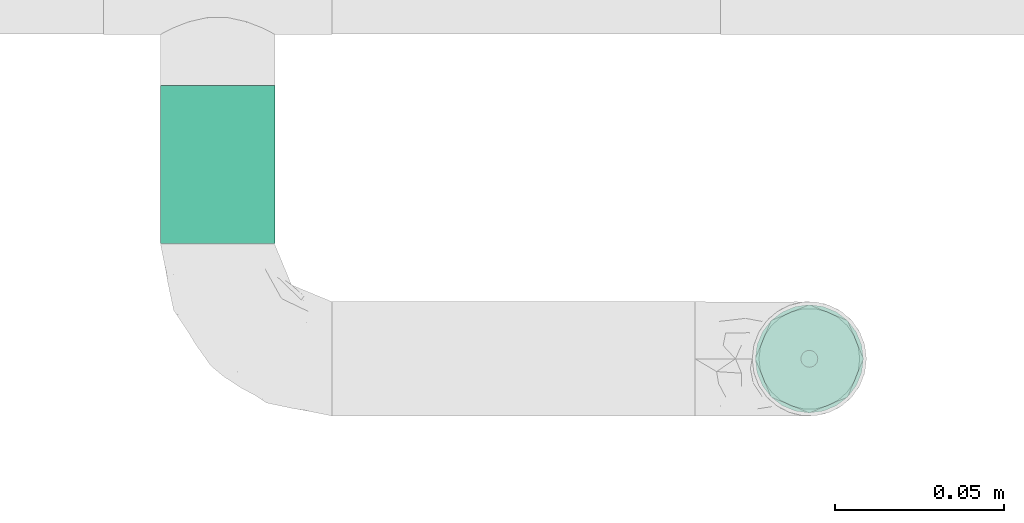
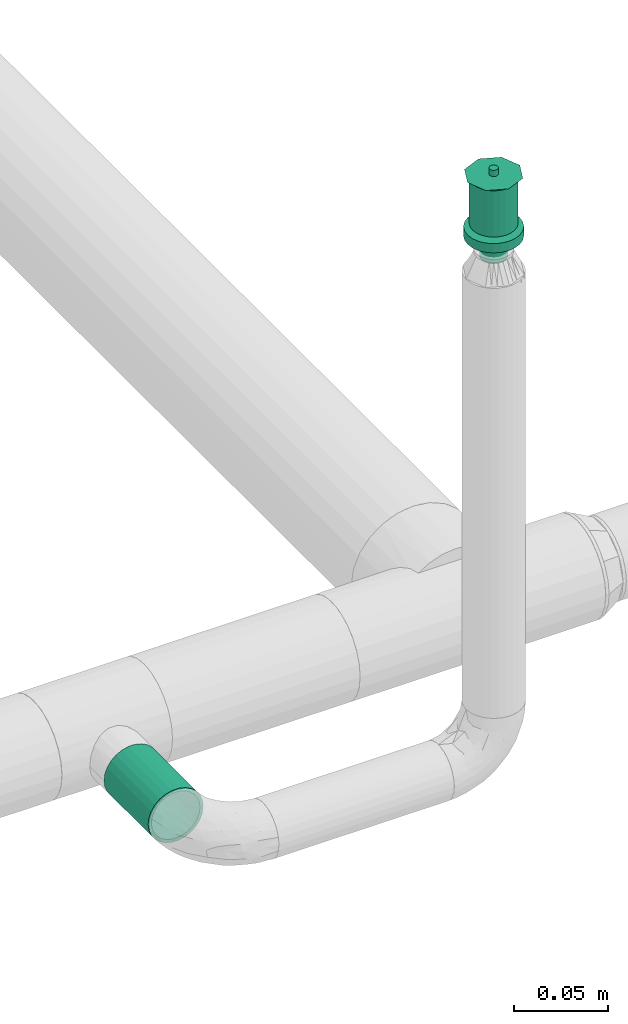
# One storey, part 80 of 157: 1 flow segment, 1 flow terminal.
"""IFC2X3 building model written with IfcOpenShell, lengths in millimetres."""

from ifc_helpers import new_model, entity, si_unit, converted_unit, derived_unit, direction, frame, origin_with_axes, origin_2d_with_axis, place, context, subcontext, project, spatial, hollow_circle, extrude, open_shell, surface_model, source, transform, mapped, type_object, element, save


model = new_model("IFC2X3")

# Units and contexts
model_context = context("Model", 3, precision=0.01, world=frame((0.0, 4.29681676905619e-09, 0.0)), true_north=direction((4.01073788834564e-13, 1.0)))
plan_context = context("Plan", 3, precision=0.01, world=frame((0.0, 4.29681676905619e-09, 0.0)), true_north=direction((4.01073788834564e-13, 1.0)))
body_context = subcontext(model_context, "Body", "Model", "MODEL_VIEW")
ifc_project = project(units=[converted_unit("PLANEANGLEUNIT", "DEGREE", entity("IfcPositiveLengthMeasure", 0.0174532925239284), si_unit("PLANEANGLEUNIT", "RADIAN"), dimensions=[0, 0, 0, 0, 0, 0, 0]), si_unit("AREAUNIT", "SQUARE_METRE"), si_unit("LENGTHUNIT", "METRE", prefix="MILLI"), si_unit("MASSUNIT", "GRAM", prefix="KILO"), si_unit("POWERUNIT", "WATT"), si_unit("PRESSUREUNIT", "PASCAL"), si_unit("FORCEUNIT", "NEWTON", prefix="KILO"), si_unit("ELECTRICCURRENTUNIT", "AMPERE"), si_unit("THERMODYNAMICTEMPERATUREUNIT", "DEGREE_CELSIUS"), si_unit("TIMEUNIT", "SECOND"), si_unit("VOLUMEUNIT", "CUBIC_METRE"), derived_unit("LINEARVELOCITYUNIT", [(si_unit("LENGTHUNIT", "METRE"), 1), (si_unit("TIMEUNIT", "SECOND"), -1)]), derived_unit("VOLUMETRICFLOWRATEUNIT", [(si_unit("VOLUMEUNIT", "CUBIC_METRE"), 1), (si_unit("TIMEUNIT", "SECOND"), -1)]), derived_unit("THERMALTRANSMITTANCEUNIT", [(si_unit("POWERUNIT", "WATT"), 1), (si_unit("THERMODYNAMICTEMPERATUREUNIT", "KELVIN"), -1), (si_unit("AREAUNIT", "SQUARE_METRE"), -1)])], contexts=[model_context, plan_context])

# Site, building, storey
site_placement = place(None, frame((0.0, -4.29681676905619e-09, 0.0), z_axis=(0.0, 0.0, 1.0), x_axis=(1.0, 0.0, 0.0)))
site = spatial("IfcSite", under=ifc_project, at=site_placement, CompositionType="ELEMENT")
building_placement = place(site_placement, frame((0.0, 4.29681676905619e-09, 0.0), z_axis=(0.0, 0.0, 1.0), x_axis=(1.0, 0.0, 0.0)))
building = spatial("IfcBuilding", under=site, at=building_placement, Name="mc-building", CompositionType="ELEMENT")
storey_placement = place(building_placement, frame((0.0, 0.0, 204000.0), z_axis=(0.0, 0.0, 1.0), x_axis=(1.0, 0.0, 0.0)))
storey = spatial("IfcBuildingStorey", under=building, at=storey_placement, Name="Nivå D", CompositionType="ELEMENT", Elevation=204000.0)

# Flow segment
pipe_segment_type = type_object("IfcPipeSegmentType", Name="Stålrør normaltykke", PredefinedType="RIGIDSEGMENT")
shared_shape_1 = source(origin_with_axes(), body_context, "Body", "SweptSolid", [
    extrude(hollow_circle(Radius=16.9, WallThickness=2.0, at=origin_2d_with_axis()), frame((0.0, 0.0, 0.0), z_axis=(1.0, 0.0, 0.0), x_axis=(0.0, 1.0, 0.0)), (0.0, 0.0, 1.0), 46.8),
])
flow_segment_placement = place(storey_placement, frame((520260.35, 413994.05389, 2690.0), z_axis=(0.0, 0.0, 1.0), x_axis=(0.0, -1.0, 0.0)))
element("IfcFlowSegment", 1, at=flow_segment_placement, inside=storey, type_object=pipe_segment_type, Name="Stålrør normaltykke", context=body_context, shape_type="MappedRepresentation", body=[
    mapped(shared_shape_1, transform((0.0, 0.0, 0.0), scale=1.0)),
])

# Flow terminal
fire_suppression_terminal_type = type_object("IfcFireSuppressionTerminalType", Name="68DGR-STD-STÅENDE", PredefinedType="NOTDEFINED")
shared_shape_2 = source(origin_with_axes(), body_context, "Body", "SurfaceModel", [
    surface_model("IfcShellBasedSurfaceModel", [(3.36465, -12.55704, 51.0), (6.5, -11.25833, 51.0), (9.19239, -9.19239, 51.0), (12.55704, -3.36465, 51.0), (-11.25833, -6.5, 51.0), (11.25833, -6.5, 51.0), (-13.0, 0.0, 51.0), (0.0, -13.0, 51.0), (-6.5, -11.25833, 51.0), (-3.36465, -12.55704, 51.0), (-9.19239, -9.19239, 51.0), (-12.55704, -3.36465, 51.0), (13.0, 0.0, 51.0), (12.55704, 3.36465, 51.0), (11.25833, 6.5, 51.0), (9.19239, 9.19239, 51.0), (6.5, 11.25833, 51.0), (3.36465, 12.55704, 51.0), (0.0, 13.0, 51.0), (-3.36465, 12.55704, 51.0), (-12.55704, 3.36465, 51.0), (-9.19239, 9.19239, 51.0), (-11.25833, 6.5, 51.0), (-6.5, 11.25833, 51.0), (0.0, 13.0, 21.14766), (3.36465, 12.55704, 21.14766), (6.5, 11.25833, 21.14766), (-3.36465, 12.55704, 21.14766), (9.19239, 9.19239, 21.14766), (11.25833, 6.5, 21.14766), (12.55704, 3.36465, 21.14766), (-12.55704, 3.36465, 21.14766), (-11.25833, -6.5, 21.14766), (-9.19239, 9.19239, 21.14766), (-6.5, 11.25833, 21.14766), (-11.25833, 6.5, 21.14766), (-13.0, 0.0, 21.14766), (12.55704, -3.36465, 21.14766), (9.19239, -9.19239, 21.14766), (11.25833, -6.5, 21.14766), (6.5, -11.25833, 21.14766), (3.36465, -12.55704, 21.14766), (-6.5, -11.25833, 21.14766), (-9.19239, -9.19239, 21.14766), (-12.55704, -3.36465, 21.14766), (0.0, -13.0, 21.14766), (-3.36465, -12.55704, 21.14766), (13.0, 0.0, 21.14766), (7.24444, -1.94114, 0.1), (1.94114, -7.24444, 0.1), (3.75, -6.49519, 0.1), (5.3033, -5.3033, 0.1), (-5.3033, -5.3033, 0.1), (6.49519, -3.75, 0.1), (5.3033, 5.3033, 0.1), (0.0, -7.5, 0.1), (-3.75, -6.49519, 0.1), (-1.94114, -7.24444, 0.1), (-7.24444, -1.94114, 0.1), (-6.49519, -3.75, 0.1), (-7.24444, 1.94114, 0.1), (7.5, 0.0, 0.1), (6.49519, 3.75, 0.1), (-6.49519, 3.75, 0.1), (1.94114, 7.24444, 0.1), (0.0, 7.5, 0.1), (3.75, 6.49519, 0.1), (-7.5, 0.0, 0.1), (-5.3033, 5.3033, 0.1), (-1.94114, 7.24444, 0.1), (-3.75, 6.49519, 0.1), (7.24444, 1.94114, 0.1), (1.94114, 7.24444, -0.1), (-6.49519, 3.75, -0.1), (0.0, 7.5, -0.1), (5.3033, 5.3033, -0.1), (3.75, 6.49519, -0.1), (6.49519, 3.75, -0.1), (7.24444, 1.94114, -0.1), (-1.94114, 7.24444, -0.1), (-5.3033, 5.3033, -0.1), (-3.75, 6.49519, -0.1), (-7.24444, 1.94114, -0.1), (-7.24444, -1.94114, -0.1), (-7.5, 0.0, -0.1), (7.5, 0.0, -0.1), (7.24444, -1.94114, -0.1), (-5.3033, -5.3033, -0.1), (1.94114, -7.24444, -0.1), (6.49519, -3.75, -0.1), (5.3033, -5.3033, -0.1), (3.75, -6.49519, -0.1), (-6.49519, -3.75, -0.1), (-3.75, -6.49519, -0.1), (0.0, -7.5, -0.1), (-1.94114, -7.24444, -0.1), (0.0, -2.5, 51.0), (-2.5, 0.0, 51.0), (0.0, 2.5, 51.0), (2.5, 0.0, 51.0), (0.0, -16.0, 53.0), (11.31371, -11.31371, 53.0), (-11.31371, -11.31371, 53.0), (-16.0, 0.0, 53.0), (16.0, 0.0, 53.0), (11.31371, 11.31371, 53.0), (0.0, 16.0, 53.0), (-11.31371, 11.31371, 53.0), (1.25, -2.16506, 57.0), (0.0, -2.5, 57.0), (0.64705, -2.41481, 57.0), (2.41481, -0.64705, 57.0), (1.76777, -1.76777, 57.0), (-2.41481, -0.64705, 57.0), (-2.5, 0.0, 57.0), (2.16506, -1.25, 57.0), (-1.25, -2.16506, 57.0), (-0.64705, -2.41481, 57.0), (-1.76777, -1.76777, 57.0), (-2.16506, -1.25, 57.0), (2.5, 0.0, 57.0), (2.41481, 0.64705, 57.0), (2.16506, 1.25, 57.0), (1.76777, 1.76777, 57.0), (0.64705, 2.41481, 57.0), (1.25, 2.16506, 57.0), (-1.76777, 1.76777, 57.0), (0.0, 2.5, 57.0), (-2.16506, 1.25, 57.0), (-2.41481, 0.64705, 57.0), (-0.64705, 2.41481, 57.0), (-1.25, 2.16506, 57.0), (1.25, 2.16506, 51.0), (1.76777, 1.76777, 51.0), (1.15, 1.99186, 51.0), (0.59528, 2.22163, 51.0), (0.64705, 2.41481, 51.0), (0.0, 2.3, 51.0), (1.62635, 1.62635, 51.0), (2.41481, 0.64705, 51.0), (2.3, 0.0, 51.0), (2.22163, 0.59528, 51.0), (2.16506, 1.25, 51.0), (1.99186, 1.15, 51.0), (-0.59528, 2.22163, 51.0), (-0.64705, 2.41481, 51.0), (-1.15, 1.99186, 51.0), (-1.76777, 1.76777, 51.0), (-1.25, 2.16506, 51.0), (-1.62635, 1.62635, 51.0), (-1.99186, 1.15, 51.0), (-2.16506, 1.25, 51.0), (-2.22163, 0.59528, 51.0), (-2.41481, 0.64705, 51.0), (-2.3, 0.0, 51.0), (2.41481, -0.64705, 51.0), (2.22163, -0.59528, 51.0), (1.99186, -1.15, 51.0), (2.16506, -1.25, 51.0), (1.62635, -1.62635, 51.0), (1.76777, -1.76777, 51.0), (1.25, -2.16506, 51.0), (1.15, -1.99186, 51.0), (0.59528, -2.22163, 51.0), (0.64705, -2.41481, 51.0), (0.0, -2.3, 51.0), (-2.16506, -1.25, 51.0), (-1.99186, -1.15, 51.0), (-1.76777, -1.76777, 51.0), (-1.62635, -1.62635, 51.0), (-2.41481, -0.64705, 51.0), (-2.22163, -0.59528, 51.0), (-0.59528, -2.22163, 51.0), (-0.64705, -2.41481, 51.0), (-1.15, -1.99186, 51.0), (-1.25, -2.16506, 51.0), (1.62635, -1.62635, 56.8), (1.15, -1.99186, 56.8), (0.59528, -2.22163, 56.8), (0.0, -2.3, 56.8), (2.22163, 0.59528, 56.8), (1.99186, -1.15, 56.8), (2.22163, -0.59528, 56.8), (-0.59528, -2.22163, 56.8), (-1.15, -1.99186, 56.8), (-1.62635, -1.62635, 56.8), (-1.99186, -1.15, 56.8), (-2.22163, -0.59528, 56.8), (-1.99186, 1.15, 56.8), (2.3, 0.0, 56.8), (1.62635, 1.62635, 56.8), (1.99186, 1.15, 56.8), (1.15, 1.99186, 56.8), (0.0, 2.3, 56.8), (0.59528, 2.22163, 56.8), (-2.22163, 0.59528, 56.8), (-2.3, 0.0, 56.8), (-1.15, 1.99186, 56.8), (-0.59528, 2.22163, 56.8), (-1.62635, 1.62635, 56.8), (4.1411, -15.45481, 19.0), (8.0, -13.85641, 19.0), (11.31371, -11.31371, 19.0), (-8.0, -13.85641, 19.0), (15.45481, -4.1411, 19.0), (16.0, 0.0, 19.0), (13.85641, -8.0, 19.0), (0.0, -16.0, 19.0), (-4.1411, -15.45481, 19.0), (-13.85641, -8.0, 19.0), (-11.31371, -11.31371, 19.0), (-15.45481, -4.1411, 19.0), (15.45481, 4.1411, 19.0), (13.85641, 8.0, 19.0), (11.31371, 11.31371, 19.0), (-4.1411, 15.45481, 19.0), (8.0, 13.85641, 19.0), (4.1411, 15.45481, 19.0), (0.0, 16.0, 19.0), (-13.85641, 8.0, 19.0), (-15.45481, 4.1411, 19.0), (-16.0, 0.0, 19.0), (-11.31371, 11.31371, 19.0), (-8.0, 13.85641, 19.0), (0.0, 16.0, 13.0), (4.1411, 15.45481, 13.0), (8.0, 13.85641, 13.0), (-4.1411, 15.45481, 13.0), (11.31371, 11.31371, 13.0), (13.85641, 8.0, 13.0), (15.45481, 4.1411, 13.0), (-15.45481, -4.1411, 13.0), (-11.31371, 11.31371, 13.0), (-8.0, 13.85641, 13.0), (-13.85641, 8.0, 13.0), (-15.45481, 4.1411, 13.0), (-16.0, 0.0, 13.0), (4.1411, -15.45481, 13.0), (16.0, 0.0, 13.0), (15.45481, -4.1411, 13.0), (13.85641, -8.0, 13.0), (11.31371, -11.31371, 13.0), (8.0, -13.85641, 13.0), (-8.0, -13.85641, 13.0), (-13.85641, -8.0, 13.0), (-11.31371, -11.31371, 13.0), (0.0, -16.0, 13.0), (-4.1411, -15.45481, 13.0), (7.24444, -1.94114, 13.0), (1.94114, -7.24444, 13.0), (3.75, -6.49519, 13.0), (5.3033, -5.3033, 13.0), (-5.3033, -5.3033, 13.0), (6.49519, -3.75, 13.0), (5.3033, 5.3033, 13.0), (0.0, -7.5, 13.0), (-3.75, -6.49519, 13.0), (-1.94114, -7.24444, 13.0), (-7.24444, -1.94114, 13.0), (-6.49519, -3.75, 13.0), (-7.24444, 1.94114, 13.0), (7.5, 0.0, 13.0), (6.49519, 3.75, 13.0), (-6.49519, 3.75, 13.0), (1.94114, 7.24444, 13.0), (0.0, 7.5, 13.0), (3.75, 6.49519, 13.0), (-7.5, 0.0, 13.0), (-5.3033, 5.3033, 13.0), (-1.94114, 7.24444, 13.0), (-3.75, 6.49519, 13.0), (7.24444, 1.94114, 13.0), (3.75, 6.49519, 0.0), (5.3033, 5.3033, 0.0), (3.65, 6.32199, 0.0), (1.88938, 7.05126, 0.0), (0.0, 7.3, 0.0), (1.94114, 7.24444, 0.0), (0.0, 7.5, 0.0), (5.16188, 5.16188, 0.0), (7.24444, 1.94114, 0.0), (7.3, 0.0, 0.0), (7.05126, 1.88938, 0.0), (7.5, 0.0, 0.0), (6.49519, 3.75, 0.0), (6.32199, 3.65, 0.0), (-1.88938, 7.05126, 0.0), (-1.94114, 7.24444, 0.0), (-3.65, 6.32199, 0.0), (-5.3033, 5.3033, 0.0), (-3.75, 6.49519, 0.0), (-5.16188, 5.16188, 0.0), (-6.32199, 3.65, 0.0), (-6.49519, 3.75, 0.0), (-7.05126, 1.88938, 0.0), (-7.24444, 1.94114, 0.0), (-7.3, 0.0, 0.0), (-7.5, 0.0, 0.0), (7.24444, -1.94114, 0.0), (7.05126, -1.88938, 0.0), (6.32199, -3.65, 0.0), (6.49519, -3.75, 0.0), (5.16188, -5.16188, 0.0), (5.3033, -5.3033, 0.0), (3.75, -6.49519, 0.0), (3.65, -6.32199, 0.0), (1.88938, -7.05126, 0.0), (1.94114, -7.24444, 0.0), (0.0, -7.3, 0.0), (0.0, -7.5, 0.0), (-6.49519, -3.75, 0.0), (-6.32199, -3.65, 0.0), (-5.3033, -5.3033, 0.0), (-5.16188, -5.16188, 0.0), (-7.24444, -1.94114, 0.0), (-7.05126, -1.88938, 0.0), (-1.88938, -7.05126, 0.0), (-1.94114, -7.24444, 0.0), (-3.65, -6.32199, 0.0), (-3.75, -6.49519, 0.0), (1.88938, -7.05126, 12.8), (0.0, -7.3, 12.8), (3.65, -6.32199, 12.8), (5.16188, -5.16188, 12.8), (6.32199, -3.65, 12.8), (7.05126, 1.88938, 12.8), (7.05126, -1.88938, 12.8), (-5.16188, -5.16188, 12.8), (-1.88938, -7.05126, 12.8), (-3.65, -6.32199, 12.8), (-6.32199, -3.65, 12.8), (-7.05126, -1.88938, 12.8), (0.0, 7.3, 12.8), (7.3, 0.0, 12.8), (6.32199, 3.65, 12.8), (5.16188, 5.16188, 12.8), (3.65, 6.32199, 12.8), (1.88938, 7.05126, 12.8), (-6.32199, 3.65, 12.8), (-7.05126, 1.88938, 12.8), (-7.3, 0.0, 12.8), (-3.65, 6.32199, 12.8), (-1.88938, 7.05126, 12.8), (-5.16188, 5.16188, 12.8)], [open_shell([[[0, 1, 2]], [[0, 2, 3]], [[0, 3, 4]], [[3, 2, 5]], [[6, 4, 3]], [[7, 8, 9]], [[7, 0, 8]], [[8, 4, 10]], [[0, 4, 8]], [[4, 6, 11]], [[6, 3, 12]], [[13, 14, 15]], [[6, 13, 15]], [[16, 17, 18]], [[15, 16, 19]], [[18, 19, 16]], [[20, 21, 22]], [[20, 6, 15]], [[21, 19, 23]], [[19, 21, 20]], [[15, 19, 20]], [[13, 6, 12]], [[24, 25, 26]], [[27, 24, 26]], [[28, 29, 30]], [[26, 28, 31]], [[28, 32, 31]], [[27, 33, 34]], [[33, 27, 31]], [[33, 31, 35]], [[27, 26, 31]], [[31, 32, 36]], [[32, 28, 30]], [[32, 30, 37]], [[38, 37, 39]], [[38, 40, 41]], [[38, 41, 37]], [[32, 37, 41]], [[32, 42, 43]], [[44, 36, 32]], [[42, 45, 46]], [[42, 32, 41]], [[45, 42, 41]], [[30, 47, 37]], [[4, 32, 43]], [[8, 42, 46]], [[43, 42, 10]], [[9, 46, 45]], [[36, 11, 6]], [[11, 36, 44]], [[11, 44, 4]], [[44, 32, 4]], [[43, 10, 4]], [[8, 10, 42]], [[46, 9, 8]], [[45, 7, 9]], [[0, 41, 40]], [[38, 1, 40]], [[5, 39, 37]], [[38, 39, 2]], [[3, 37, 47]], [[41, 0, 7]], [[40, 1, 0]], [[38, 2, 1]], [[39, 5, 2]], [[3, 5, 37]], [[47, 12, 3]], [[41, 7, 45]], [[30, 13, 47]], [[29, 14, 30]], [[25, 24, 17]], [[15, 29, 28]], [[30, 14, 13]], [[13, 12, 47]], [[16, 26, 17]], [[16, 15, 28]], [[26, 25, 17]], [[15, 14, 29]], [[28, 26, 16]], [[24, 18, 17]], [[19, 27, 34]], [[33, 23, 34]], [[22, 35, 31]], [[33, 35, 21]], [[20, 31, 36]], [[27, 19, 18]], [[34, 23, 19]], [[33, 21, 23]], [[35, 22, 21]], [[20, 22, 31]], [[36, 6, 20]], [[27, 18, 24]], [[48, 49, 50]], [[48, 50, 51]], [[49, 48, 52]], [[48, 51, 53]], [[54, 52, 48]], [[55, 56, 57]], [[56, 55, 52]], [[52, 58, 59]], [[52, 55, 49]], [[52, 60, 58]], [[54, 48, 61]], [[62, 54, 61]], [[54, 63, 52]], [[64, 65, 54]], [[64, 54, 66]], [[63, 54, 65]], [[63, 60, 52]], [[67, 58, 60]], [[68, 69, 70]], [[69, 68, 63]], [[69, 63, 65]], [[71, 62, 61]], [[72, 73, 74]], [[75, 72, 76]], [[75, 77, 78]], [[72, 75, 73]], [[78, 73, 75]], [[79, 80, 81]], [[80, 79, 73]], [[74, 73, 79]], [[78, 82, 73]], [[82, 83, 84]], [[82, 78, 85]], [[86, 87, 85]], [[88, 86, 89]], [[90, 91, 88]], [[90, 88, 89]], [[87, 86, 88]], [[83, 87, 92]], [[83, 85, 87]], [[93, 94, 95]], [[94, 93, 87]], [[88, 94, 87]], [[85, 83, 82]], [[83, 58, 84]], [[92, 59, 83]], [[56, 87, 93]], [[92, 87, 52]], [[57, 93, 95]], [[83, 59, 58]], [[58, 67, 84]], [[57, 56, 93]], [[52, 87, 56]], [[52, 59, 92]], [[55, 57, 95]], [[95, 94, 55]], [[88, 49, 94]], [[91, 50, 88]], [[53, 90, 89]], [[91, 90, 51]], [[48, 89, 86]], [[91, 51, 50]], [[50, 49, 88]], [[61, 48, 86]], [[53, 89, 48]], [[53, 51, 90]], [[85, 61, 86]], [[94, 49, 55]], [[78, 71, 85]], [[77, 62, 78]], [[66, 75, 76]], [[77, 75, 54]], [[64, 76, 72]], [[78, 62, 71]], [[71, 61, 85]], [[64, 66, 76]], [[54, 75, 66]], [[54, 62, 77]], [[65, 64, 72]], [[72, 74, 65]], [[79, 69, 74]], [[81, 70, 79]], [[63, 80, 73]], [[81, 80, 68]], [[60, 73, 82]], [[81, 68, 70]], [[70, 69, 79]], [[67, 60, 82]], [[63, 73, 60]], [[63, 68, 80]], [[84, 67, 82]], [[74, 69, 65]], [[96, 97, 98]], [[98, 99, 96]], [[100, 101, 102]], [[103, 102, 101]], [[101, 104, 103]], [[104, 105, 106]], [[107, 103, 106]], [[106, 103, 104]], [[99, 98, 105]], [[105, 104, 99]], [[98, 106, 105]], [[98, 107, 106]], [[107, 98, 97]], [[103, 107, 97]], [[97, 96, 102]], [[102, 103, 97]], [[96, 100, 102]], [[96, 101, 100]], [[101, 96, 99]], [[104, 101, 99]], [[108, 109, 110]], [[111, 108, 112]], [[113, 108, 114]], [[111, 112, 115]], [[108, 111, 114]], [[109, 116, 117]], [[116, 109, 118]], [[118, 113, 119]], [[118, 109, 108]], [[108, 113, 118]], [[111, 120, 114]], [[121, 122, 123]], [[114, 121, 123]], [[114, 123, 124]], [[124, 123, 125]], [[126, 124, 127]], [[124, 128, 129]], [[129, 114, 124]], [[126, 130, 131]], [[128, 124, 126]], [[130, 126, 127]], [[121, 114, 120]], [[132, 133, 134]], [[132, 134, 135]], [[136, 135, 137]], [[135, 136, 132]], [[136, 137, 98]], [[134, 133, 138]], [[139, 140, 141]], [[140, 139, 99]], [[139, 141, 142]], [[138, 142, 143]], [[142, 138, 133]], [[143, 142, 141]], [[98, 144, 145]], [[98, 137, 144]], [[145, 144, 146]], [[147, 148, 149]], [[146, 148, 145]], [[149, 148, 146]], [[150, 151, 147]], [[151, 150, 152]], [[150, 147, 149]], [[153, 152, 154]], [[152, 153, 151]], [[153, 154, 97]], [[99, 155, 156]], [[156, 155, 157]], [[157, 158, 159]], [[158, 157, 155]], [[159, 158, 160]], [[160, 161, 162]], [[162, 161, 163]], [[163, 164, 165]], [[164, 163, 161]], [[165, 164, 96]], [[162, 159, 160]], [[166, 167, 168]], [[168, 167, 169]], [[167, 166, 170]], [[97, 171, 170]], [[170, 171, 167]], [[97, 154, 171]], [[172, 96, 173]], [[172, 173, 174]], [[169, 175, 168]], [[175, 169, 174]], [[175, 174, 173]], [[165, 96, 172]], [[156, 140, 99]], [[170, 113, 97]], [[166, 119, 170]], [[116, 168, 175]], [[166, 168, 118]], [[117, 175, 173]], [[170, 119, 113]], [[113, 114, 97]], [[117, 116, 175]], [[118, 168, 116]], [[118, 119, 166]], [[109, 117, 173]], [[173, 96, 109]], [[164, 110, 96]], [[161, 108, 164]], [[115, 160, 158]], [[161, 160, 112]], [[111, 158, 155]], [[161, 112, 108]], [[108, 110, 164]], [[120, 111, 155]], [[115, 158, 111]], [[115, 112, 160]], [[99, 120, 155]], [[96, 110, 109]], [[139, 121, 99]], [[142, 122, 139]], [[125, 133, 132]], [[142, 133, 123]], [[124, 132, 136]], [[139, 122, 121]], [[121, 120, 99]], [[124, 125, 132]], [[123, 133, 125]], [[123, 122, 142]], [[127, 124, 136]], [[136, 98, 127]], [[145, 130, 98]], [[148, 131, 145]], [[128, 147, 151]], [[148, 147, 126]], [[129, 151, 153]], [[148, 126, 131]], [[131, 130, 145]], [[114, 129, 153]], [[128, 151, 129]], [[128, 126, 147]], [[97, 114, 153]], [[98, 130, 127]], [[176, 177, 178]], [[176, 178, 179]], [[180, 176, 179]], [[181, 176, 182]], [[180, 182, 176]], [[183, 184, 179]], [[185, 179, 184]], [[186, 187, 185]], [[185, 187, 188]], [[179, 185, 188]], [[189, 182, 180]], [[190, 191, 180]], [[192, 190, 180]], [[193, 194, 192]], [[180, 193, 192]], [[188, 193, 180]], [[195, 188, 196]], [[196, 188, 187]], [[197, 198, 199]], [[188, 199, 198]], [[188, 198, 193]], [[180, 179, 188]], [[154, 187, 171]], [[171, 186, 167]], [[174, 169, 184]], [[185, 169, 167]], [[172, 174, 183]], [[187, 186, 171]], [[154, 196, 187]], [[174, 184, 183]], [[184, 169, 185]], [[167, 186, 185]], [[172, 183, 179]], [[179, 165, 172]], [[165, 178, 163]], [[163, 177, 162]], [[157, 159, 181]], [[176, 159, 162]], [[156, 157, 182]], [[177, 176, 162]], [[163, 178, 177]], [[156, 182, 189]], [[182, 157, 181]], [[159, 176, 181]], [[156, 189, 140]], [[179, 178, 165]], [[140, 180, 141]], [[141, 191, 143]], [[134, 138, 192]], [[190, 138, 143]], [[135, 134, 194]], [[180, 191, 141]], [[140, 189, 180]], [[134, 192, 194]], [[192, 138, 190]], [[143, 191, 190]], [[135, 194, 193]], [[193, 137, 135]], [[137, 198, 144]], [[144, 197, 146]], [[150, 149, 188]], [[199, 149, 146]], [[152, 150, 195]], [[197, 199, 146]], [[144, 198, 197]], [[152, 195, 196]], [[195, 150, 188]], [[149, 199, 188]], [[152, 196, 154]], [[193, 198, 137]], [[200, 201, 202]], [[203, 200, 202]], [[204, 205, 202]], [[204, 202, 206]], [[203, 202, 205]], [[207, 203, 208]], [[207, 200, 203]], [[203, 209, 210]], [[209, 203, 211]], [[205, 211, 203]], [[205, 212, 211]], [[212, 213, 214]], [[215, 212, 214]], [[216, 217, 218]], [[214, 216, 215]], [[218, 215, 216]], [[211, 219, 220]], [[221, 211, 220]], [[222, 215, 223]], [[215, 222, 219]], [[219, 211, 215]], [[211, 212, 215]], [[224, 225, 226]], [[227, 224, 226]], [[228, 229, 230]], [[227, 226, 228]], [[227, 228, 231]], [[227, 232, 233]], [[232, 227, 234]], [[234, 231, 235]], [[231, 234, 227]], [[235, 231, 236]], [[228, 230, 231]], [[237, 238, 239]], [[237, 239, 240]], [[241, 242, 237]], [[241, 237, 240]], [[238, 237, 243]], [[244, 243, 245]], [[243, 244, 231]], [[243, 246, 247]], [[243, 231, 238]], [[237, 246, 243]], [[238, 231, 230]], [[231, 211, 236]], [[244, 209, 231]], [[203, 245, 243]], [[244, 245, 210]], [[208, 243, 247]], [[231, 209, 211]], [[211, 221, 236]], [[208, 203, 243]], [[210, 245, 203]], [[210, 209, 244]], [[207, 208, 247]], [[247, 246, 207]], [[237, 200, 246]], [[242, 201, 237]], [[206, 241, 240]], [[242, 241, 202]], [[204, 240, 239]], [[242, 202, 201]], [[201, 200, 237]], [[205, 204, 239]], [[206, 240, 204]], [[206, 202, 241]], [[238, 205, 239]], [[246, 200, 207]], [[230, 212, 238]], [[229, 213, 230]], [[216, 228, 226]], [[229, 228, 214]], [[217, 226, 225]], [[230, 213, 212]], [[212, 205, 238]], [[217, 216, 226]], [[214, 228, 216]], [[214, 213, 229]], [[218, 217, 225]], [[225, 224, 218]], [[227, 215, 224]], [[233, 223, 227]], [[219, 232, 234]], [[233, 232, 222]], [[220, 234, 235]], [[233, 222, 223]], [[223, 215, 227]], [[221, 220, 235]], [[219, 234, 220]], [[219, 222, 232]], [[236, 221, 235]], [[224, 215, 218]], [[248, 249, 250]], [[248, 250, 251]], [[249, 248, 252]], [[248, 251, 253]], [[254, 252, 248]], [[255, 256, 257]], [[256, 255, 252]], [[252, 258, 259]], [[252, 255, 249]], [[252, 260, 258]], [[254, 248, 261]], [[262, 254, 261]], [[254, 263, 252]], [[264, 265, 254]], [[264, 254, 266]], [[263, 254, 265]], [[263, 260, 252]], [[267, 258, 260]], [[268, 269, 270]], [[269, 268, 263]], [[269, 263, 265]], [[271, 262, 261]], [[272, 273, 274]], [[272, 274, 275]], [[276, 277, 275]], [[277, 276, 278]], [[275, 277, 272]], [[274, 273, 279]], [[280, 281, 282]], [[281, 280, 283]], [[280, 282, 284]], [[279, 284, 285]], [[284, 279, 273]], [[285, 284, 282]], [[278, 286, 287]], [[287, 286, 288]], [[289, 290, 291]], [[288, 290, 287]], [[288, 291, 290]], [[278, 276, 286]], [[292, 293, 289]], [[293, 292, 294]], [[292, 289, 291]], [[295, 294, 296]], [[294, 295, 293]], [[295, 296, 297]], [[283, 298, 299]], [[299, 298, 300]], [[300, 301, 302]], [[301, 300, 298]], [[302, 301, 303]], [[303, 304, 305]], [[305, 304, 306]], [[306, 307, 308]], [[307, 306, 304]], [[308, 307, 309]], [[305, 302, 303]], [[310, 311, 312]], [[312, 311, 313]], [[311, 310, 314]], [[297, 315, 314]], [[314, 315, 311]], [[297, 296, 315]], [[316, 309, 317]], [[316, 317, 318]], [[313, 319, 312]], [[313, 318, 319]], [[319, 318, 317]], [[308, 309, 316]], [[299, 281, 283]], [[314, 258, 297]], [[310, 259, 314]], [[256, 312, 319]], [[310, 312, 252]], [[257, 319, 317]], [[314, 259, 258]], [[258, 267, 297]], [[257, 256, 319]], [[252, 312, 256]], [[252, 259, 310]], [[255, 257, 317]], [[317, 309, 255]], [[307, 249, 309]], [[304, 250, 307]], [[253, 303, 301]], [[304, 303, 251]], [[248, 301, 298]], [[304, 251, 250]], [[250, 249, 307]], [[261, 248, 298]], [[253, 301, 248]], [[253, 251, 303]], [[283, 261, 298]], [[309, 249, 255]], [[280, 271, 283]], [[284, 262, 280]], [[266, 273, 272]], [[284, 273, 254]], [[264, 272, 277]], [[280, 262, 271]], [[271, 261, 283]], [[264, 266, 272]], [[254, 273, 266]], [[254, 262, 284]], [[265, 264, 277]], [[277, 278, 265]], [[287, 269, 278]], [[290, 270, 287]], [[263, 289, 293]], [[290, 289, 268]], [[260, 293, 295]], [[290, 268, 270]], [[270, 269, 287]], [[267, 260, 295]], [[263, 293, 260]], [[263, 268, 289]], [[297, 267, 295]], [[278, 269, 265]], [[320, 321, 322]], [[323, 322, 324]], [[325, 326, 322]], [[324, 322, 326]], [[322, 327, 325]], [[328, 329, 321]], [[327, 321, 329]], [[330, 331, 327]], [[322, 321, 327]], [[331, 332, 327]], [[326, 325, 333]], [[334, 325, 332]], [[335, 334, 336]], [[332, 337, 336]], [[334, 332, 336]], [[331, 338, 332]], [[339, 338, 340]], [[340, 338, 331]], [[341, 342, 343]], [[332, 338, 343]], [[332, 343, 342]], [[332, 325, 327]], [[296, 331, 315]], [[315, 330, 311]], [[318, 313, 329]], [[327, 313, 311]], [[316, 318, 328]], [[331, 330, 315]], [[296, 340, 331]], [[318, 329, 328]], [[329, 313, 327]], [[311, 330, 327]], [[316, 328, 321]], [[321, 308, 316]], [[308, 320, 306]], [[306, 322, 305]], [[300, 302, 324]], [[323, 302, 305]], [[299, 300, 326]], [[322, 323, 305]], [[306, 320, 322]], [[299, 326, 333]], [[326, 300, 324]], [[302, 323, 324]], [[299, 333, 281]], [[321, 320, 308]], [[281, 325, 282]], [[282, 334, 285]], [[274, 279, 336]], [[335, 279, 285]], [[275, 274, 337]], [[325, 334, 282]], [[281, 333, 325]], [[274, 336, 337]], [[336, 279, 335]], [[285, 334, 335]], [[275, 337, 332]], [[332, 276, 275]], [[276, 342, 286]], [[286, 341, 288]], [[292, 291, 338]], [[343, 291, 288]], [[294, 292, 339]], [[341, 343, 288]], [[286, 342, 341]], [[294, 339, 340]], [[339, 292, 338]], [[291, 343, 338]], [[294, 340, 296]], [[332, 342, 276]]])]),
])
flow_terminal_placement = place(storey_placement, frame((520435.35, 413913.20018, 3011.5), z_axis=(0.0, 0.0, 1.0), x_axis=(1.0, 0.0, 0.0)))
element("IfcFlowTerminal", 2, at=flow_terminal_placement, inside=storey, type_object=fire_suppression_terminal_type, Name="68DGR-STD-STÅENDE", context=body_context, shape_type="MappedRepresentation", body=[
    mapped(shared_shape_2, transform((0.0, 0.0, 0.0), scale=1.0)),
])

save(model, "model.ifc")
